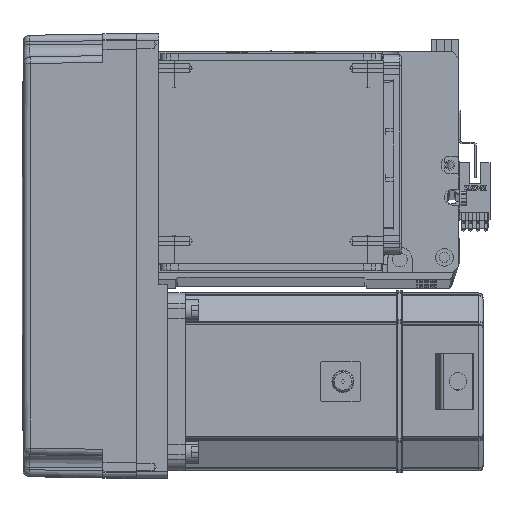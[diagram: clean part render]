
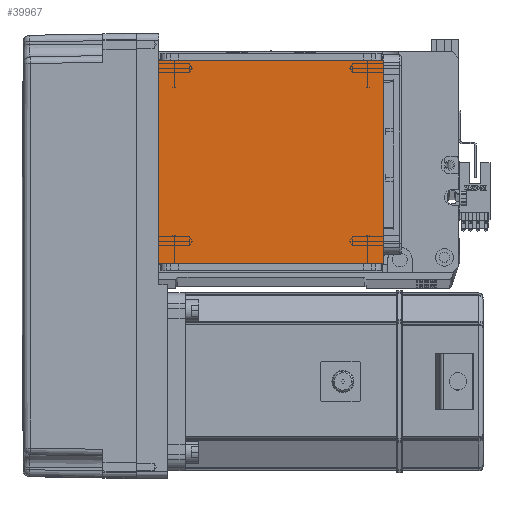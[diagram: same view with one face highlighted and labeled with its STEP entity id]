
A CAD part, top view. The second image highlights one B-rep face of the part: STEP entity #39967.
In plain terms, the highlighted planar face has unit normal (0, 0, 1).
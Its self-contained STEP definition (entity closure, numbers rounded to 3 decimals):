
#169 = VERTEX_POINT ( 'NONE', #48462 ) ;
#3501 = CARTESIAN_POINT ( 'NONE',  ( -50.5, 111.5, 115. ) ) ;
#5252 = VECTOR ( 'NONE', #60390, 1000. ) ;
#9438 = DIRECTION ( 'NONE',  ( 1., 0., 0. ) ) ;
#9649 = EDGE_CURVE ( 'NONE', #61373, #9947, #33510, .T. ) ;
#9947 = VERTEX_POINT ( 'NONE', #55714 ) ;
#10220 = CARTESIAN_POINT ( 'NONE',  ( -70.004, 20., 115. ) ) ;
#12334 = EDGE_CURVE ( 'NONE', #59574, #169, #51564, .T. ) ;
#12510 = EDGE_CURVE ( 'NONE', #59574, #9947, #23440, .T. ) ;
#16198 = ORIENTED_EDGE ( 'NONE', *, *, #9649, .F. ) ;
#16538 = ORIENTED_EDGE ( 'NONE', *, *, #29647, .T. ) ;
#23440 = LINE ( 'NONE', #40160, #53801 ) ;
#25911 = DIRECTION ( 'NONE',  ( 0., 0., 1. ) ) ;
#26130 = DIRECTION ( 'NONE',  ( 1., 0., 0. ) ) ;
#26419 = AXIS2_PLACEMENT_3D ( 'NONE', #34850, #25911, #26130 ) ;
#26553 = CARTESIAN_POINT ( 'NONE',  ( 50.5, 122., 115. ) ) ;
#29647 = EDGE_CURVE ( 'NONE', #61373, #169, #62803, .T. ) ;
#33510 = LINE ( 'NONE', #10220, #48643 ) ;
#34273 = FACE_OUTER_BOUND ( 'NONE', #42968, .T. ) ;
#34850 = CARTESIAN_POINT ( 'NONE',  ( 0., 0., 115. ) ) ;
#34899 = VECTOR ( 'NONE', #9438, 1000. ) ;
#39967 = ADVANCED_FACE ( 'NONE', ( #34273 ), #58930, .T. ) ;
#40160 = CARTESIAN_POINT ( 'NONE',  ( -50.5, 122., 115. ) ) ;
#42968 = EDGE_LOOP ( 'NONE', ( #58652, #59338, #16198, #16538 ) ) ;
#48462 = CARTESIAN_POINT ( 'NONE',  ( 50.5, 111.5, 115. ) ) ;
#48643 = VECTOR ( 'NONE', #59072, 1000. ) ;
#49670 = DIRECTION ( 'NONE',  ( 0., -1., 0. ) ) ;
#51564 = LINE ( 'NONE', #52461, #34899 ) ;
#52461 = CARTESIAN_POINT ( 'NONE',  ( -70.004, 111.5, 115. ) ) ;
#53801 = VECTOR ( 'NONE', #49670, 1000. ) ;
#53905 = CARTESIAN_POINT ( 'NONE',  ( 50.5, 20., 115. ) ) ;
#55714 = CARTESIAN_POINT ( 'NONE',  ( -50.5, 20., 115. ) ) ;
#58652 = ORIENTED_EDGE ( 'NONE', *, *, #12334, .F. ) ;
#58930 = PLANE ( 'NONE',  #26419 ) ;
#59072 = DIRECTION ( 'NONE',  ( -1., 0., 0. ) ) ;
#59338 = ORIENTED_EDGE ( 'NONE', *, *, #12510, .T. ) ;
#59574 = VERTEX_POINT ( 'NONE', #3501 ) ;
#60390 = DIRECTION ( 'NONE',  ( 0., 1., 0. ) ) ;
#61373 = VERTEX_POINT ( 'NONE', #53905 ) ;
#62803 = LINE ( 'NONE', #26553, #5252 ) ;
